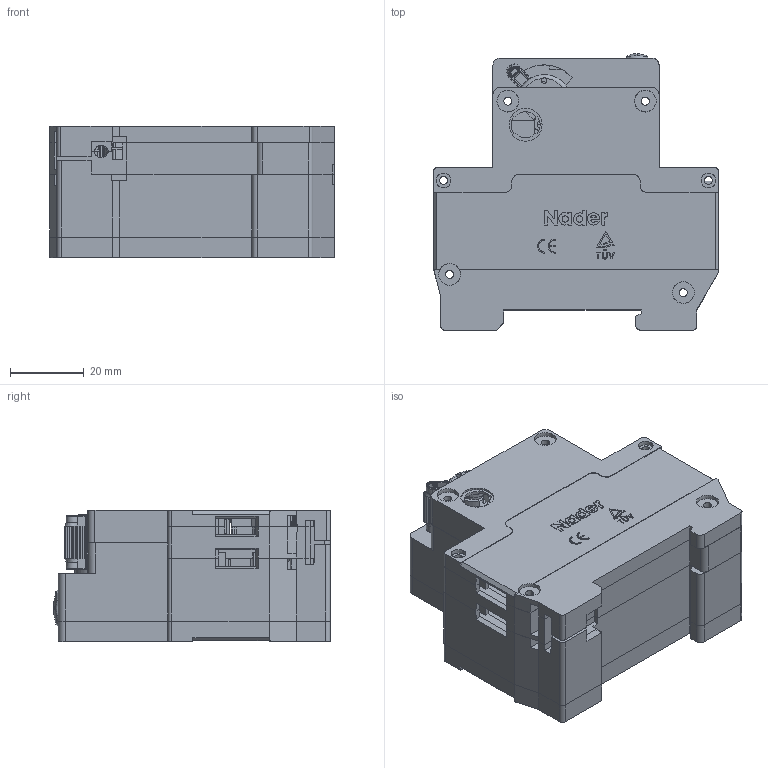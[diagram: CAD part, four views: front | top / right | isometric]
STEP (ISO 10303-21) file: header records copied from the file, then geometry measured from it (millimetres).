
FILE_DESCRIPTION (( 'STEP AP203' ), '1' );
FILE_NAME ('NDB1L-32.STEP', '2017-01-19T02:36:02', ( '' ), ( '' ), 'SwSTEP 2.0', 'SolidWorks 2011', '' );
FILE_SCHEMA (( 'CONFIG_CONTROL_DESIGN' ));
Products named in the file (7): NDB1L-32; 8LD.253.1246; 8LD.253.1202; 8LD.750.1160; 8LD.315.106; 8LD.315.105; 8LD.024.1251
Assembly tree (6 placements, depth 2):
  NDB1L-32
    8LD.750.1160
    8LD.024.1251
    8LD.315.105
    8LD.253.1246
    8LD.315.106
    8LD.253.1202
Bounding box: 77.3 x 75.13 x 35.74 mm (x, y, z)
Volume: 45795.6 mm3; surface area: 67526.7 mm2
Topology: 6 solids, 6 shells, 2794 faces, 7747 edges, 5090 vertices
Faces by surface type: plane 1949, cylinder 539, cone 240, bspline 60, torus 6
Entity records: 95770 total; most frequent: CARTESIAN_POINT 23880, ORIENTED_EDGE 15474, DIRECTION 13858, EDGE_CURVE 7737, LINE 5800, VECTOR 5800, VERTEX_POINT 5086, AXIS2_PLACEMENT_3D 4029
